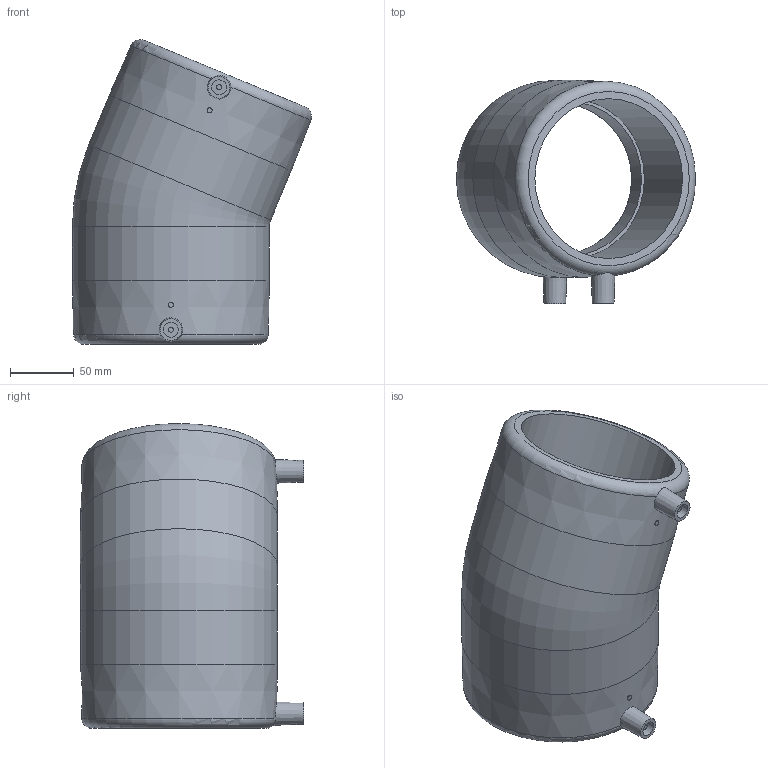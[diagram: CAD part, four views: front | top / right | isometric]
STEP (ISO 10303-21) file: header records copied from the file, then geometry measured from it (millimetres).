
FILE_DESCRIPTION(/* description */ ('Unknown'),/* implementation_level */ '2;1');
FILE_NAME(/* name */ 'GE2250P125C',/* time_stamp */ '2020-11-30T16:47:40+01:00',/* author */ ('Unknown'),/* organization */ ('Unknown'),/* preprocessor_version */ 'ST-DEVELOPER v16.7',/* originating_system */ 'Solid Edge',/* authorisation */ 'Unknown');
FILE_SCHEMA (('AUTOMOTIVE_DESIGN {1 0 10303 214 3 1 1}'));
Length unit declared in the file: millimetre
Products named in the file (1): GE2250P125C
Bounding box: 187 x 174.5 x 238.31 mm (x, y, z)
Volume: 1428270.8 mm3; surface area: 205384.5 mm2
Topology: 1 solids, 1 shells, 32 faces, 69 edges, 47 vertices
Faces by surface type: plane 12, cylinder 12, torus 4, cone 4
Full cylindrical faces by diameter (mm): 4 x4, 11.7 x2, 120 x2, 125 x2, 154 x2
Entity records: 778 total; most frequent: CARTESIAN_POINT 180, DIRECTION 124, ORIENTED_EDGE 78, AXIS2_PLACEMENT_3D 62, EDGE_LOOP 61, FACE_BOUND 61, EDGE_CURVE 39, VERTEX_POINT 36
